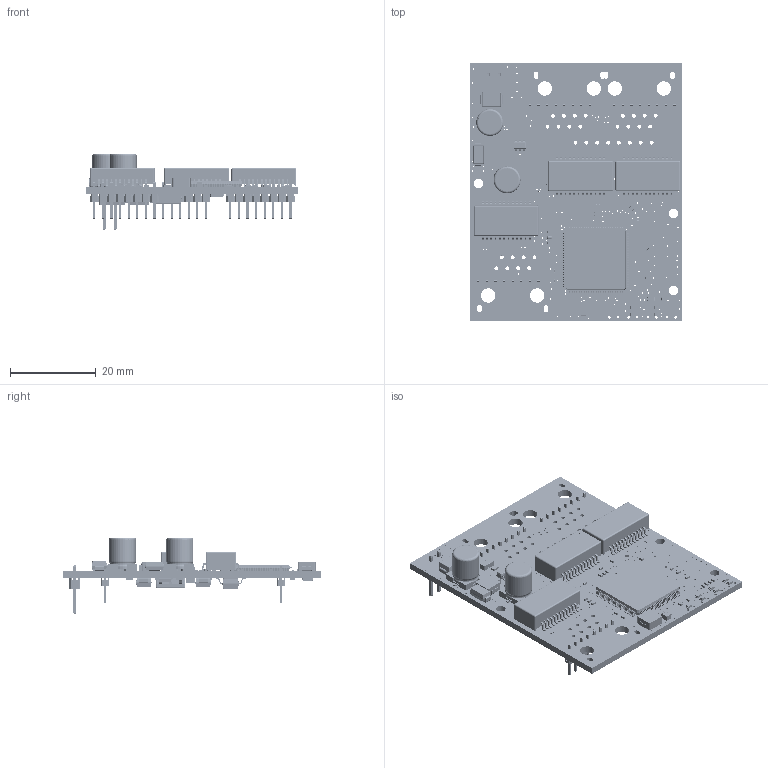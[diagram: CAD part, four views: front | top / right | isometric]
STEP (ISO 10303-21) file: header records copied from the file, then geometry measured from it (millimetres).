
FILE_DESCRIPTION(('Designed by EasyEDA Pro'),'2;1');
FILE_NAME('Open CASCADE Shape Model','2024-07-09T22:04:47',('Author'),( 'Open CASCADE'),'Open CASCADE STEP processor 7.8','Open CASCADE 7.8' ,'Unknown');
FILE_SCHEMA(('AUTOMOTIVE_DESIGN { 1 0 10303 214 1 1 1 1 }'));
Length unit declared in the file: millimetre
Products named in the file (144): PCBModel; TopTrack; BottomTrack; Board; k7cT-C16; C0805; SOLID; k7cT-C30; k7cT-C3; k7cT-C2; C0402; k7cT-C7; k7cT-C18; k7cT-C93; k7cT-C94; k7cT-C95; k7cT-C96; k7cT-C97; k7cT-C98; k7cT-C99; k7cT-C100; k7cT-C101; k7cT-C102; k7cT-C103; k7cT-C104; k7cT-C105; k7cT-C106; k7cT-C107; k7cT-C108; k7cT-C110; k7cT-C112; k7cT-C113; k7cT-C116; k7cT-C117; k7cT-C127; k7cT-C130; k7cT-C36; 0402; k7cT-C37; k7cT-C39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
Assembly tree (214 placements, depth 4):
  PCBModel
    TopTrack
    BottomTrack
    Board
    k7cT-C16
      C0805
        SOLID
    k7cT-C30
      C0805
        SOLID
    k7cT-C3
      C0805
        SOLID
    k7cT-C2
      C0402
        SOLID
    k7cT-C7
      C0402
        SOLID
    k7cT-C18
      C0402
        SOLID
    k7cT-C93
      C0402
        SOLID
    k7cT-C94
      C0402
        SOLID
    k7cT-C95
      C0402
        SOLID
    k7cT-C96
      C0402
        SOLID
    k7cT-C97
      C0402
        SOLID
    k7cT-C98
      C0402
        SOLID
    k7cT-C99
      C0402
        SOLID
    k7cT-C100
      C0402
        SOLID
    k7cT-C101
      C0402
        SOLID
    k7cT-C102
      C0402
        SOLID
    k7cT-C103
      C0402
        SOLID
    k7cT-C104
      C0402
        SOLID
    k7cT-C105
      C0402
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Bounding box: 49.47 x 59.97 x 17.85 mm (x, y, z)
Volume: 7237.6 mm3; surface area: 11723.4 mm2
Topology: 203 solids, 203 shells, 33956 faces, 91501 edges, 59626 vertices
Faces by surface type: plane 19207, bspline 9416, cylinder 4643, sphere 598, torus 92
Entity records: 462741 total; most frequent: CARTESIAN_POINT 109932, ORIENTED_EDGE 59228, DIRECTION 45249, EDGE_CURVE 29614, LINE 20225, VECTOR 20225, VERTEX_POINT 19446, AXIS2_PLACEMENT_3D 12512
